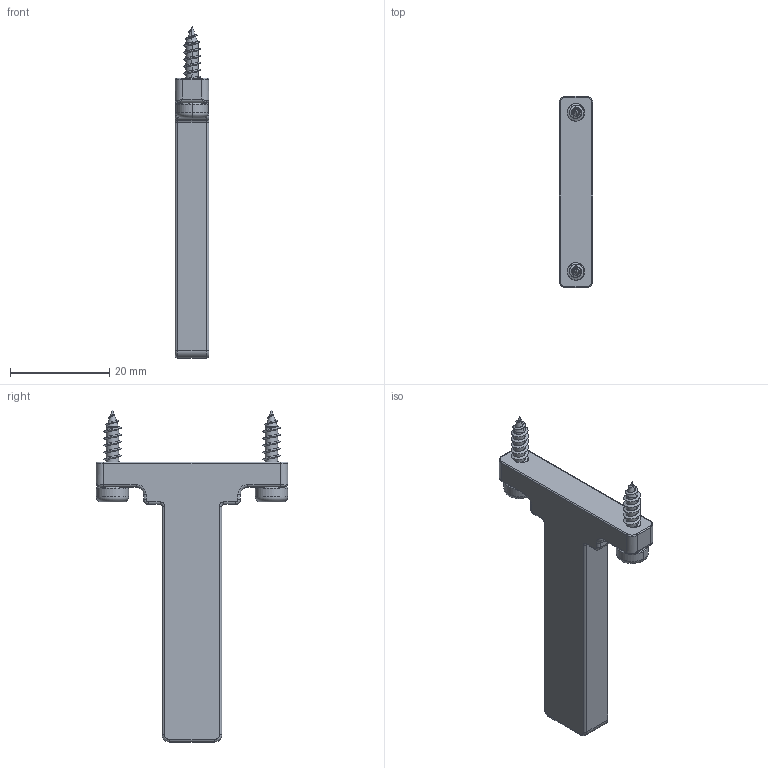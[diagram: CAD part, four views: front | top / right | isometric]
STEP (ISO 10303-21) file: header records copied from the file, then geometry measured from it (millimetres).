
FILE_DESCRIPTION (( 'STEP AP203' ), '1' );
FILE_NAME ('TB01011.STEP', '2021-03-29T00:59:21', ( 'Users' ), ( 'Microsoft' ), 'SwSTEP 2.0', 'SolidWorks 2018', '' );
FILE_SCHEMA (( 'CONFIG_CONTROL_DESIGN' ));
Length unit declared in the file: millimetre
Products named in the file (1): TB01011
Bounding box: 6.8 x 38.6 x 66.8 mm (x, y, z)
Volume: 5901.9 mm3; surface area: 3225.8 mm2
Topology: 1 solids, 1 shells, 212 faces, 562 edges, 346 vertices
Faces by surface type: plane 84, cylinder 64, torus 38, bspline 16, cone 10
Entity records: 10059 total; most frequent: CARTESIAN_POINT 5137, ORIENTED_EDGE 1108, DIRECTION 912, EDGE_CURVE 554, AXIS2_PLACEMENT_3D 361, VERTEX_POINT 346, EDGE_LOOP 214, ADVANCED_FACE 212
